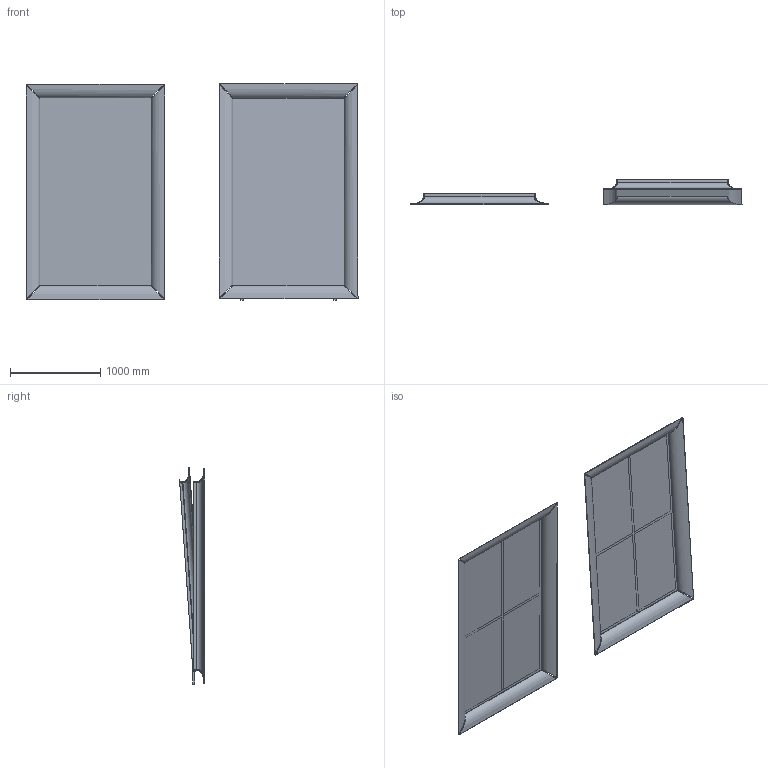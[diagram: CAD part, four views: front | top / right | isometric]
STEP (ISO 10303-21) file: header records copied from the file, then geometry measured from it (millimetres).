
FILE_DESCRIPTION(/* description */ (''),/* implementation_level */ '2;1');
FILE_NAME(/* name */ 'CAADRE~1',/* time_stamp */ '2018-10-08T15:50:27+02:00',/* author */ (''),/* organization */ (''),/* preprocessor_version */ 'ST-DEVELOPER v16.5',/* originating_system */ '',/* authorisation */ '');
FILE_SCHEMA (('CONFIG_CONTROL_DESIGN'));
Length unit declared in the file: millimetre
Products named in the file (1): Document
Bounding box: 3688.59 x 278.24 x 2402.22 mm (x, y, z)
Volume: 62412633.4 mm3; surface area: 19259814.3 mm2
Topology: 17 solids, 17 shells, 187 faces, 449 edges, 280 vertices
Faces by surface type: bspline 103, plane 84
Entity records: 6815 total; most frequent: CARTESIAN_POINT 3729, ORIENTED_EDGE 882, EDGE_CURVE 441, B_SPLINE_CURVE_WITH_KNOTS 441, VERTEX_POINT 272, EDGE_LOOP 189, ADVANCED_FACE 187, FACE_OUTER_BOUND 187
